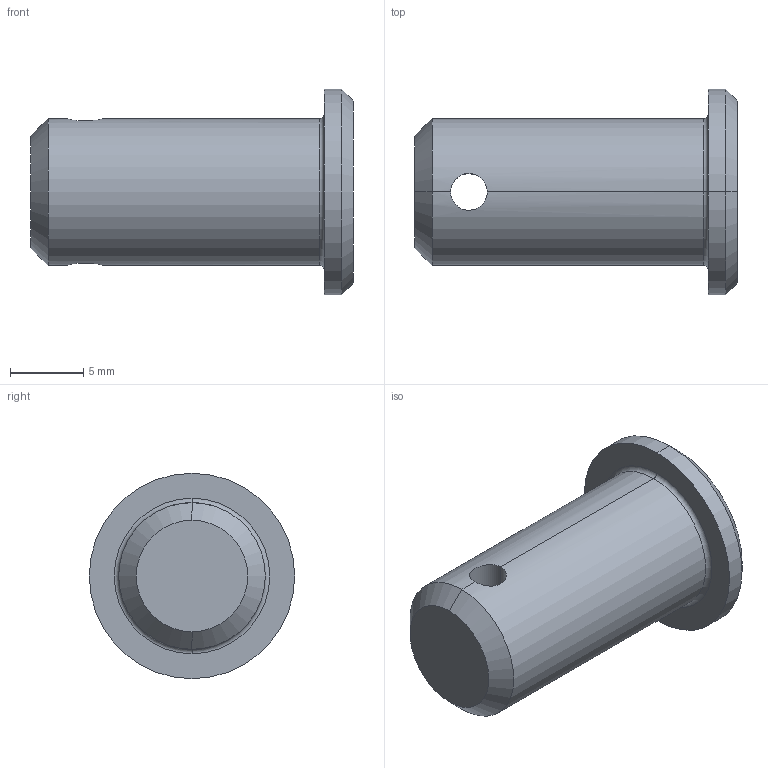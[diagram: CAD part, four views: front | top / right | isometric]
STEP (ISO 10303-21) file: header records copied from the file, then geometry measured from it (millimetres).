
FILE_DESCRIPTION (( 'STEP AP203' ), '1' );
FILE_NAME ('Wiberger-sms2360_10x20.step', '2012-10-09T08:56:43', ( 'Magnus' ), ( 'Wiberger' ), 'SwSTEP 2.0', 'SolidWorks 2011', '' );
FILE_SCHEMA (( 'CONFIG_CONTROL_DESIGN' ));
Length unit declared in the file: millimetre
Products named in the file (1): Wiberger-sms2360_10x20
Bounding box: 22 x 14 x 14 mm (x, y, z)
Volume: 1796.2 mm3; surface area: 1042.2 mm2
Topology: 1 solids, 1 shells, 15 faces, 32 edges, 18 vertices
Faces by surface type: cylinder 6, cone 4, plane 3, torus 2
Entity records: 555 total; most frequent: CARTESIAN_POINT 146, DIRECTION 76, ORIENTED_EDGE 64, EDGE_CURVE 32, AXIS2_PLACEMENT_3D 32, VERTEX_POINT 18, EDGE_LOOP 16, CIRCLE 16
